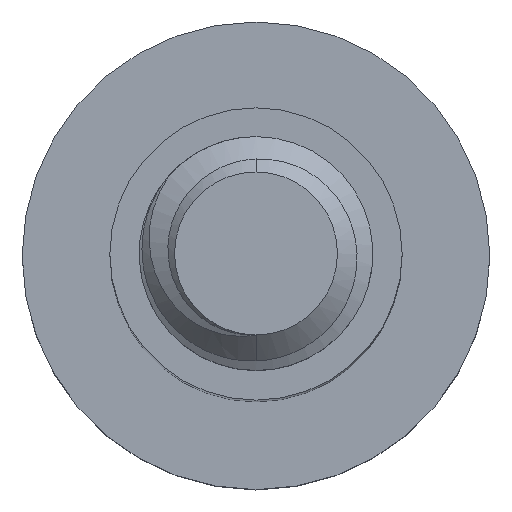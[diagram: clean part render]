
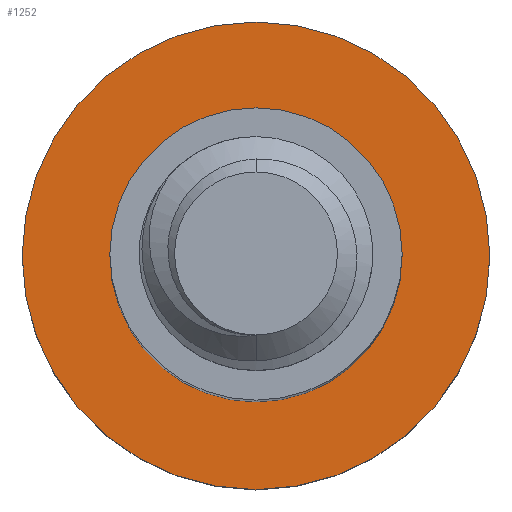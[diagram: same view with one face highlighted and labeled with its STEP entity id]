
A CAD part, top view. The second image highlights one B-rep face of the part: STEP entity #1252.
In plain terms, the highlighted planar face has unit normal (0, 0, 1).
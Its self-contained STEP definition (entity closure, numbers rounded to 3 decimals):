
#29 = CIRCLE ( 'NONE', #2167, 4. ) ;
#66 = AXIS2_PLACEMENT_3D ( 'NONE', #915, #81, #748 ) ;
#81 = DIRECTION ( 'NONE',  ( 0., 0., -1. ) ) ;
#92 = CARTESIAN_POINT ( 'NONE',  ( 0., 0., -18. ) ) ;
#194 = CARTESIAN_POINT ( 'NONE',  ( 2.5, 0., -18. ) ) ;
#277 = DIRECTION ( 'NONE',  ( -1., 0., 0. ) ) ;
#403 = DIRECTION ( 'NONE',  ( 0., 0., -1. ) ) ;
#415 = DIRECTION ( 'NONE',  ( -1., 0., 0. ) ) ;
#519 = AXIS2_PLACEMENT_3D ( 'NONE', #1797, #1762, #277 ) ;
#559 = DIRECTION ( 'NONE',  ( -1., 0., 0. ) ) ;
#570 = CARTESIAN_POINT ( 'NONE',  ( 0., 0., -18. ) ) ;
#677 = ORIENTED_EDGE ( 'NONE', *, *, #881, .T. ) ;
#731 = AXIS2_PLACEMENT_3D ( 'NONE', #570, #403, #559 ) ;
#736 = ORIENTED_EDGE ( 'NONE', *, *, #1032, .F. ) ;
#748 = DIRECTION ( 'NONE',  ( -1., 0., 0. ) ) ;
#822 = EDGE_LOOP ( 'NONE', ( #736, #984 ) ) ;
#826 = VERTEX_POINT ( 'NONE', #194 ) ;
#831 = DIRECTION ( 'NONE',  ( 0., 0., -1. ) ) ;
#881 = EDGE_CURVE ( 'NONE', #1665, #826, #1569, .T. ) ;
#897 = PLANE ( 'NONE',  #731 ) ;
#915 = CARTESIAN_POINT ( 'NONE',  ( 0., 0., -18. ) ) ;
#947 = CIRCLE ( 'NONE', #66, 4. ) ;
#984 = ORIENTED_EDGE ( 'NONE', *, *, #1051, .F. ) ;
#1032 = EDGE_CURVE ( 'NONE', #1165, #1239, #947, .T. ) ;
#1051 = EDGE_CURVE ( 'NONE', #1239, #1165, #29, .T. ) ;
#1108 = ORIENTED_EDGE ( 'NONE', *, *, #1592, .T. ) ;
#1165 = VERTEX_POINT ( 'NONE', #1984 ) ;
#1219 = DIRECTION ( 'NONE',  ( 0., 0., -1. ) ) ;
#1239 = VERTEX_POINT ( 'NONE', #1687 ) ;
#1252 = ADVANCED_FACE ( 'NONE', ( #1754, #1545 ), #897, .F. ) ;
#1304 = CIRCLE ( 'NONE', #2105, 2.5 ) ;
#1328 = DIRECTION ( 'NONE',  ( -1., 0., 0. ) ) ;
#1545 = FACE_OUTER_BOUND ( 'NONE', #822, .T. ) ;
#1569 = CIRCLE ( 'NONE', #519, 2.5 ) ;
#1592 = EDGE_CURVE ( 'NONE', #826, #1665, #1304, .T. ) ;
#1665 = VERTEX_POINT ( 'NONE', #2039 ) ;
#1687 = CARTESIAN_POINT ( 'NONE',  ( -4., 0., -18. ) ) ;
#1754 = FACE_BOUND ( 'NONE', #1933, .T. ) ;
#1762 = DIRECTION ( 'NONE',  ( 0., 0., -1. ) ) ;
#1797 = CARTESIAN_POINT ( 'NONE',  ( 0., 0., -18. ) ) ;
#1933 = EDGE_LOOP ( 'NONE', ( #677, #1108 ) ) ;
#1984 = CARTESIAN_POINT ( 'NONE',  ( 4., 0., -18. ) ) ;
#2039 = CARTESIAN_POINT ( 'NONE',  ( -2.5, 0., -18. ) ) ;
#2086 = CARTESIAN_POINT ( 'NONE',  ( 0., 0., -18. ) ) ;
#2105 = AXIS2_PLACEMENT_3D ( 'NONE', #92, #831, #1328 ) ;
#2167 = AXIS2_PLACEMENT_3D ( 'NONE', #2086, #1219, #415 ) ;
